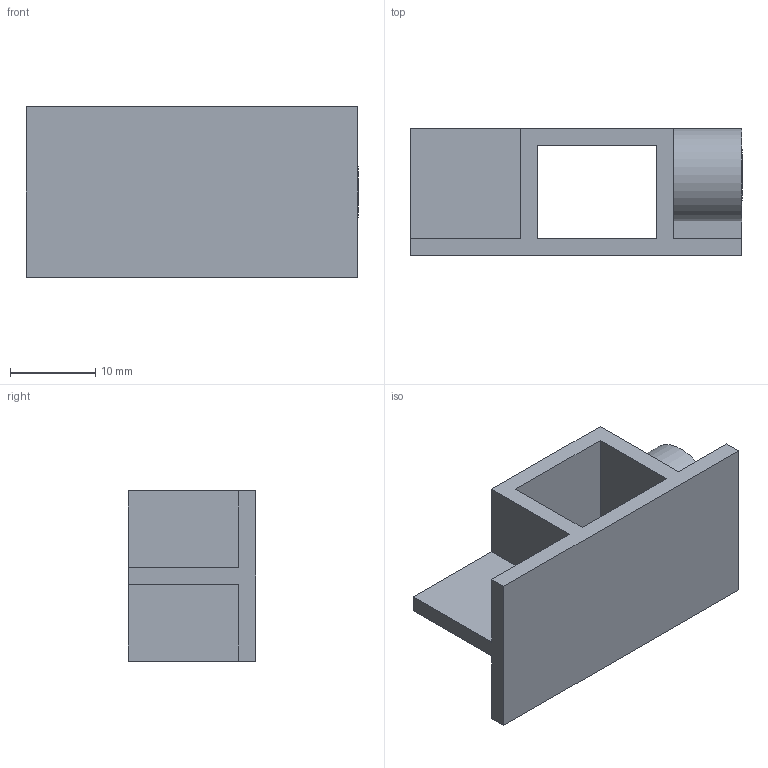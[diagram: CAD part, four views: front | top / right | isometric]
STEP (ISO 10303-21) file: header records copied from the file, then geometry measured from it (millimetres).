
FILE_DESCRIPTION (( 'STEP AP214' ), '1' );
FILE_NAME ('L18101.step', '2024-12-03T16:21:29', ( '' ), ( '' ), 'SwSTEP 2.0', 'SolidWorks 2023', '' );
FILE_SCHEMA (( 'AUTOMOTIVE_DESIGN' ));
Length unit declared in the file: millimetre
Products named in the file (1): L18101
Bounding box: 39 x 15 x 20 mm (x, y, z)
Volume: 4112.4 mm3; surface area: 4230.3 mm2
Topology: 1 solids, 1 shells, 29 faces, 77 edges, 51 vertices
Faces by surface type: plane 25, cylinder 3, cone 1
Full cylindrical faces by diameter (mm): 5 x1
Entity records: 907 total; most frequent: CARTESIAN_POINT 156, ORIENTED_EDGE 150, DIRECTION 142, EDGE_CURVE 75, VECTOR 68, LINE 68, VERTEX_POINT 51, AXIS2_PLACEMENT_3D 37
